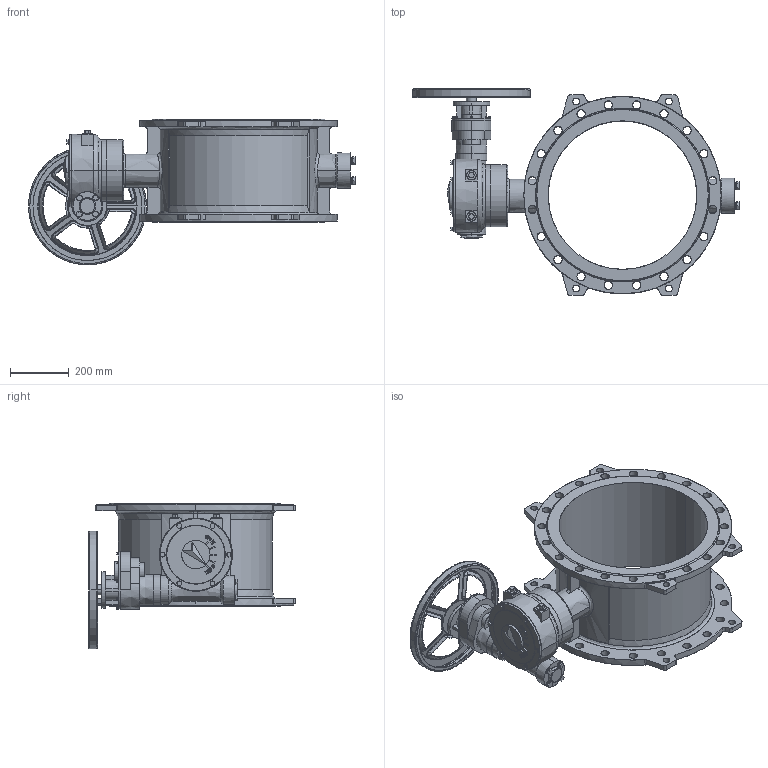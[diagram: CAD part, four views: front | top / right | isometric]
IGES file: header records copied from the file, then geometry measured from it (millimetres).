
Start section: SolidWorks IGES file using analytic representation for surfaces
Global section: file name: F:\2014年工作\泰科菲三维模型资料\PN10\DN500 PN10\DN500 PN10.IGS; native system: SolidWorks 2012; preprocessor: SolidWorks 2012; author: Administrator; date: 140930.101041; units: millimetre
Bounding box: 1110.1 x 701.75 x 495 mm (x, y, z)
Surface area: 2782009.1 mm2 (no closed solid volume)
Topology: 0 solids, 0 shells, 1088 faces, 20842 edges, 20825 vertices
Faces by surface type: bspline 735, revolution 353
